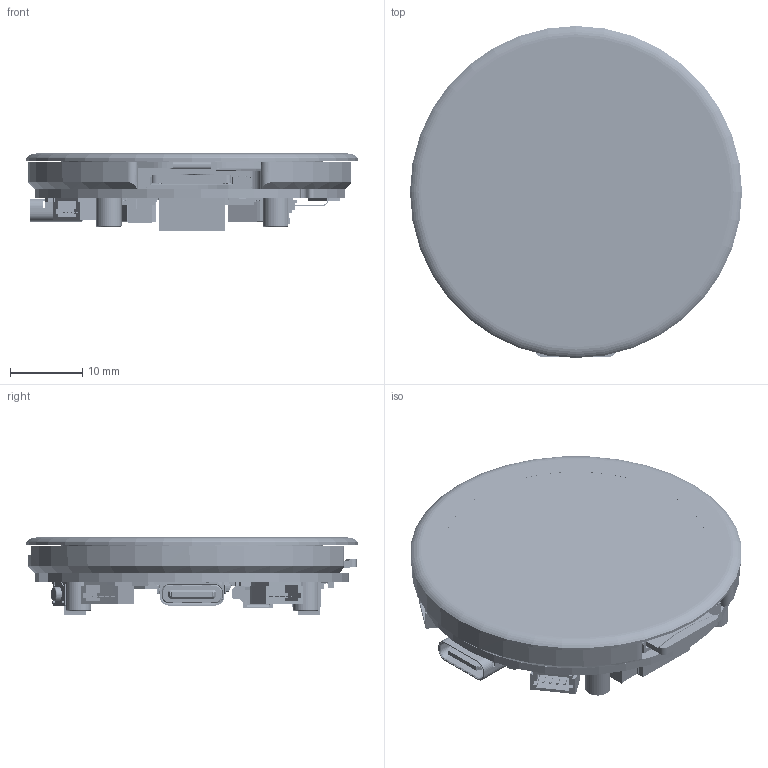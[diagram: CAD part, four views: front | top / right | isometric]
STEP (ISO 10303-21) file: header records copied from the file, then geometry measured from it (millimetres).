
FILE_DESCRIPTION((''),'2;1');
FILE_NAME('ESP32-S3-TOUCH-AMOLED-1_43_ASM','2024-12-09T11:31:21',('xiaojisheng'),(''),'CREO PARAMETRIC BY PTC INC, 2021063','CREO PARAMETRIC BY PTC INC, 2021063','');
FILE_SCHEMA(('CONFIG_CONTROL_DESIGN','SHAPE_APPEARANCE_LAYERS_GROUPS'));
Products named in the file (201): DO0143FMST02_TP; DO0143FMST02; 1_43INCH-TP_LCD_ASM; ESP32-S3-TOUCH-LCD-1_43-PCB; BOARD; USER_LIBRARY-RES_0603-0201_1; USER_LIBRARY-RES_0603-0201_2; USER_LIBRARY-RES_0603-0201_3; USER_LIBRARY-RES_0603-0201_4; USER_LIBRARY-RES_0603-0201_ASM; R9_ASM; R14_ASM; PITCH1MM-4PIN-SMT-HORIZONTAL; J10_ASM; J8_ASM; EXTRUDED-39550; 401461904_ASM; Y2_ASM; EXTRUDED-39945; 401462288_ASM; Y1_ASM; EXTRUDED-40340; 401461776_ASM; U6_ASM; CYLINDER-40739; 442949856_ASM; EXTRUDED-40885; 401461264_ASM; U5_ASM; EXTRUDED-41304; 401461136_ASM; EXTRUDED-41701; 401461008_ASM; U3_ASM; EXTRUDED-42096; 401462032_ASM; U2_ASM; EXTRUDED-42491; 401461648_ASM; U1_ASM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
Assembly tree (273 placements, depth 9):
  ESP32-S3-TOUCH-AMOLED-1_43_ASM
    1_43INCH-TP_LCD_ASM
      DO0143FMST02_TP
      DO0143FMST02
    ESP32-S3-TOUCH-LCD-1_43-PCBA_ASM
      ESP32-S3-TOUCH-LCD-1_43-PCB
      ESP32-S3-AMOLED-1_43-PCBA-1114_ASM
        PCB_ASM
          BOARD
          R9_ASM
            USER_LIBRARY-RES_0603-0201_ASM
              USER_LIBRARY-RES_0603-0201_1
              USER_LIBRARY-RES_0603-0201_2
              USER_LIBRARY-RES_0603-0201_3
              USER_LIBRARY-RES_0603-0201_4
          R14_ASM
            USER_LIBRARY-RES_0603-0201_ASM
              USER_LIBRARY-RES_0603-0201_1
              USER_LIBRARY-RES_0603-0201_2
              USER_LIBRARY-RES_0603-0201_3
              USER_LIBRARY-RES_0603-0201_4
          J10_ASM
            PITCH1MM-4PIN-SMT-HORIZONTAL
          J8_ASM
            PITCH1MM-4PIN-SMT-HORIZONTAL
          Y2_ASM
            401461904_ASM
              EXTRUDED-39550
          Y1_ASM
            401462288_ASM
              EXTRUDED-39945
          U6_ASM
            401461776_ASM
              EXTRUDED-40340
          U5_ASM
            442949856_ASM
              CYLINDER-40739
            401461264_ASM
              EXTRUDED-40885
          U3_ASM
            401461136_ASM  x6
              EXTRUDED-41304
            401461008_ASM
              EXTRUDED-41701
          U2_ASM
            401462032_ASM
              EXTRUDED-42096
          U1_ASM
            401461648_ASM
              EXTRUDED-42491
          R31_ASM
            USER_LIBRARY-RES_0603-0201_ASM
              USER_LIBRARY-RES_0603-0201_1
              USER_LIBRARY-RES_0603-0201_2
              USER_LIBRARY-RES_0603-0201_3
              USER_LIBRARY-RES_0603-0201_4
          R30_ASM
            USER_LIBRARY-RES_0603-0201_ASM
              USER_LIBRARY-RES_0603-0201_1
              USER_LIBRARY-RES_0603-0201_2
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Bounding box: 46 x 46 x 10.7 mm (x, y, z)
Volume: 8944.5 mm3; surface area: 18564.1 mm2
Topology: 292 solids, 312 shells, 14972 faces, 39620 edges, 25611 vertices
Faces by surface type: plane 10107, extrusion 2410, cylinder 2025, sphere 242, cone 110, bspline 48, torus 30
Entity records: 306906 total; most frequent: CARTESIAN_POINT 65532, ORIENTED_EDGE 39822, DIRECTION 36729, EDGE_CURVE 19926, PRESENTATION_STYLE_ASSIGNMENT 16184, VECTOR 16055, LINE 15645, STYLED_ITEM 15615
